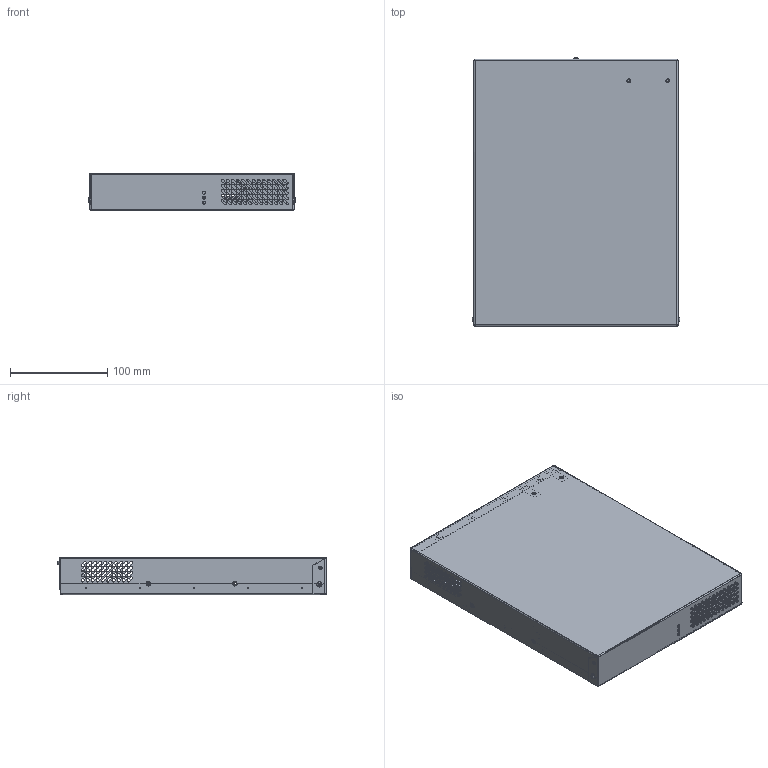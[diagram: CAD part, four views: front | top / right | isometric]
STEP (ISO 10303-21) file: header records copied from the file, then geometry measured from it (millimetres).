
FILE_DESCRIPTION(/* description */ ('Unknown'),/* implementation_level */ '2;1');
FILE_NAME(/* name */ 'MEZZO',/* time_stamp */ '2025-05-05T13:28:51+02:00',/* author */ ('Unknown'),/* organization */ ('Unknown'),/* preprocessor_version */ 'ST-DEVELOPER v19.4',/* originating_system */ 'Solid Edge',/* authorisation */ 'Unknown');
FILE_SCHEMA (('AUTOMOTIVE_DESIGN {1 0 10303 214 3 1 1}'));
Products named in the file (26): 01 4202MEZZO PFxx; ME001435.00.03; SM001176.03 00_oa_0; PL1001; 1757268_06; mstba_2.5-4-g-5.08; PL1_oa_1; User_Library-Bulgin_PX0580PC_oa_2; User_Library-Bulgin_PX0580PC_Bulgin_PX0580PC_IEC60320_Shell; VI000112-SCR TBEI M3x6 ZN BLACK ISO7380; ME001434.00.08_oa_3; ME001434.00.07; RJ45_1; SPINOTTO; SMD01176.04_oa_4; SM001176.03 00_oa_5; PL1003; 1803316; PL1004; 1803332_05; PL3003; PL3001; PL1_oa_6; User_Library-Bulgin_PX0580PC_oa_7; User_Library-Bulgin_PX0580PC_IEC60320-1_Sheet_C14_Earth_Pin; User_Library-Bulgin_PX0580PC_IEC60320-1_Sheet_C14_Power_Pin
Assembly tree (32 placements, depth 6):
  01 4202MEZZO PFxx
    ME001435.00.03
    SM001176.03 00_oa_0
      PL1001
        1757268_06
          mstba_2.5-4-g-5.08
      PL1_oa_1
        User_Library-Bulgin_PX0580PC_oa_2
          User_Library-Bulgin_PX0580PC_Bulgin_PX0580PC_IEC60320_Shell
    VI000112-SCR TBEI M3x6 ZN BLACK ISO7380  x5
    ME001434.00.08_oa_3
      ME001434.00.07
    RJ45_1  x2
    SPINOTTO
    SMD01176.04_oa_4
      SM001176.03 00_oa_5
        PL1003
          1803316
        PL1004
          1803332_05
        PL3003
          1803316
        PL3001
          1757268_06
            mstba_2.5-4-g-5.08
        PL1_oa_6
          User_Library-Bulgin_PX0580PC_oa_7
            User_Library-Bulgin_PX0580PC_IEC60320-1_Sheet_C14_Earth_Pin
            User_Library-Bulgin_PX0580PC_IEC60320-1_Sheet_C14_Power_Pin
Bounding box: 213.2 x 275.6 x 38.95 mm (x, y, z)
Volume: 165405.4 mm3; surface area: 354502 mm2
Topology: 18 solids, 18 shells, 4705 faces, 12578 edges, 8181 vertices
Faces by surface type: plane 3644, cylinder 887, torus 79, cone 45, sphere 28, bspline 22
Full cylindrical faces by diameter (mm): 0.434 x2, 0.457 x3, 1.2 x20, 1.25 x34, 1.4 x8, 1.6 x17, 2.459 x18, 2.8 x6, 3 x6, 3.2 x4, 3.45 x4, 3.5 x4, 3.7 x6, 4 x16, 4.2 x2, 4.25 x12, 4.4 x2, 4.6 x4, 5.5 x5, 6 x1, 7 x1, 7.2 x1
Entity records: 134163 total; most frequent: CARTESIAN_POINT 20206, ORIENTED_EDGE 18402, DIRECTION 17711, EDGE_CURVE 9201, LINE 7505, VECTOR 7505, VERTEX_POINT 6126, AXIS2_PLACEMENT_3D 5103
